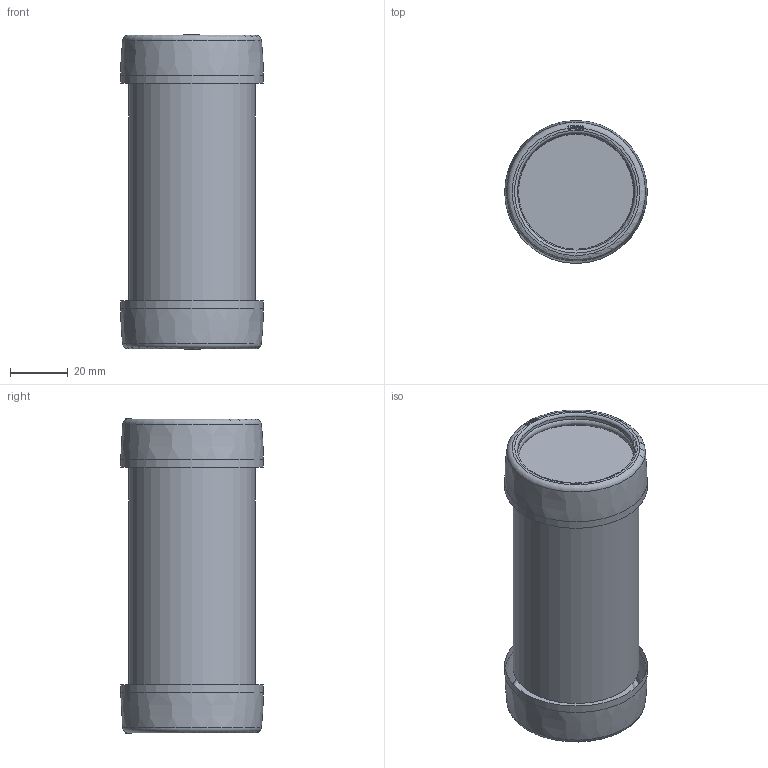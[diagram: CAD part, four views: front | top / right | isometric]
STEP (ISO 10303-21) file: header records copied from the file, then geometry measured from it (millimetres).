
FILE_DESCRIPTION(/* description */ (''),/* implementation_level */ '2;1');
FILE_NAME(/* name */ '4009442.stp',/* time_stamp */ '2017-10-02T08:16:25+02:00',/* author */ (''),/* organization */ (''),/* preprocessor_version */ 'ST-DEVELOPER v16',/* originating_system */ 'SIEMENS PLM Software NX 11.0',/* authorisation */ '');
FILE_SCHEMA (('AUTOMOTIVE_DESIGN { 1 0 10303 214 3 1 1 1 }'));
Length unit declared in the file: millimetre
Products named in the file (1): 4009442_LINKEDEXT_jt
Bounding box: 49.6 x 49.6 x 109.6 mm (x, y, z)
Surface area: 24811.8 mm2 (no closed solid volume)
Topology: 0 solids, 21 shells, 43 faces, 291 edges, 254 vertices
Faces by surface type: plane 20, torus 16, cylinder 3, bspline 2, cone 2
Full cylindrical faces by diameter (mm): 43.9 x1, 49.6 x2
Entity records: 3997 total; most frequent: CARTESIAN_POINT 1888, ORIENTED_EDGE 300, EDGE_CURVE 270, VERTEX_POINT 248, DIRECTION 206, B_SPLINE_CURVE_WITH_KNOTS 194, AXIS2_PLACEMENT_3D 88, PRESENTATION_STYLE_ASSIGNMENT 62
